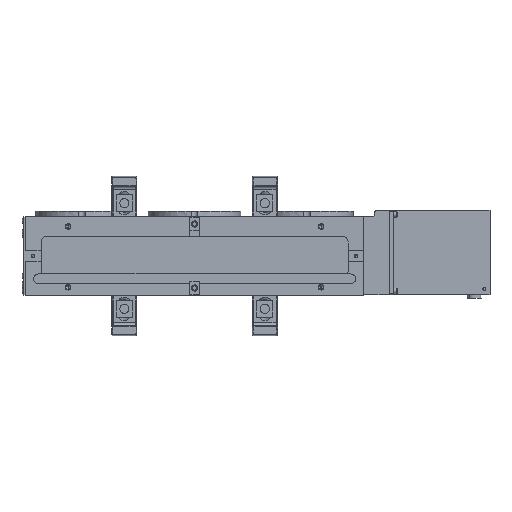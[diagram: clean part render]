
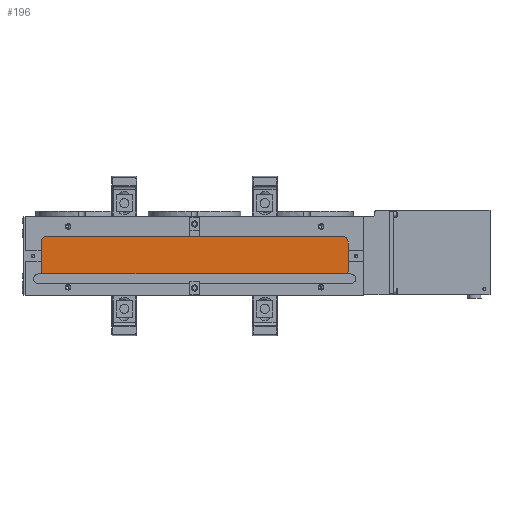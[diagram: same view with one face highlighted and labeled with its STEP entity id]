
A CAD part, front view. The second image highlights one B-rep face of the part: STEP entity #196.
In plain terms, the highlighted planar face has unit normal (0, -1, 0).
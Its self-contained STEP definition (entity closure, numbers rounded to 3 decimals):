
#196 = ADVANCED_FACE ( 'NONE', ( #42994 ), #92399, .F. ) ;
#3264 = EDGE_CURVE ( 'NONE', #18555, #72468, #52448, .T. ) ;
#4252 = DIRECTION ( 'NONE',  ( 0., -1., 0. ) ) ;
#5420 = CARTESIAN_POINT ( 'NONE',  ( -463., -134., -24. ) ) ;
#6254 = DIRECTION ( 'NONE',  ( 0., 0., -1. ) ) ;
#6754 = CARTESIAN_POINT ( 'NONE',  ( 63., -134., 28. ) ) ;
#8164 = ORIENTED_EDGE ( 'NONE', *, *, #3264, .T. ) ;
#8393 = CARTESIAN_POINT ( 'NONE',  ( 73., -134., -24. ) ) ;
#8798 = VECTOR ( 'NONE', #69285, 1000. ) ;
#9262 = VERTEX_POINT ( 'NONE', #13224 ) ;
#12643 = CARTESIAN_POINT ( 'NONE',  ( -463., -134., 38. ) ) ;
#13038 = LINE ( 'NONE', #53172, #8798 ) ;
#13224 = CARTESIAN_POINT ( 'NONE',  ( -471.66, -134., -29. ) ) ;
#15489 = DIRECTION ( 'NONE',  ( 0., 0., -1. ) ) ;
#17849 = CARTESIAN_POINT ( 'NONE',  ( 71.66, -134., -29. ) ) ;
#18555 = VERTEX_POINT ( 'NONE', #72122 ) ;
#22015 = DIRECTION ( 'NONE',  ( 1., 0., 0. ) ) ;
#25887 = CARTESIAN_POINT ( 'NONE',  ( 63., -134., -24. ) ) ;
#26748 = CARTESIAN_POINT ( 'NONE',  ( 73., -134., 28. ) ) ;
#28215 = VERTEX_POINT ( 'NONE', #8393 ) ;
#29048 = ORIENTED_EDGE ( 'NONE', *, *, #50282, .T. ) ;
#30083 = AXIS2_PLACEMENT_3D ( 'NONE', #5420, #37212, #68968 ) ;
#30338 = CARTESIAN_POINT ( 'NONE',  ( -463., -134., -29. ) ) ;
#32124 = EDGE_CURVE ( 'NONE', #86004, #47029, #13038, .T. ) ;
#33317 = EDGE_CURVE ( 'NONE', #56972, #86004, #57153, .T. ) ;
#34975 = EDGE_CURVE ( 'NONE', #28215, #56972, #59060, .T. ) ;
#35430 = CARTESIAN_POINT ( 'NONE',  ( 63., -134., 38. ) ) ;
#36791 = DIRECTION ( 'NONE',  ( 0., 0., -1. ) ) ;
#37212 = DIRECTION ( 'NONE',  ( 0., 1., 0. ) ) ;
#37459 = AXIS2_PLACEMENT_3D ( 'NONE', #25887, #80073, #15489 ) ;
#42547 = VECTOR ( 'NONE', #36791, 1000. ) ;
#42994 = FACE_OUTER_BOUND ( 'NONE', #97655, .T. ) ;
#43761 = ORIENTED_EDGE ( 'NONE', *, *, #95267, .T. ) ;
#44820 = ORIENTED_EDGE ( 'NONE', *, *, #33317, .T. ) ;
#45456 = AXIS2_PLACEMENT_3D ( 'NONE', #6754, #84444, #6254 ) ;
#46510 = LINE ( 'NONE', #30338, #103039 ) ;
#47029 = VERTEX_POINT ( 'NONE', #12643 ) ;
#50262 = CARTESIAN_POINT ( 'NONE',  ( -473., -134., -24. ) ) ;
#50282 = EDGE_CURVE ( 'NONE', #9262, #70671, #46510, .T. ) ;
#52297 = DIRECTION ( 'NONE',  ( 0., 0., 1. ) ) ;
#52448 = LINE ( 'NONE', #71001, #42547 ) ;
#53172 = CARTESIAN_POINT ( 'NONE',  ( -463., -134., 38. ) ) ;
#56134 = ORIENTED_EDGE ( 'NONE', *, *, #100502, .T. ) ;
#56972 = VERTEX_POINT ( 'NONE', #73581 ) ;
#57153 = CIRCLE ( 'NONE', #45456, 10. ) ;
#57448 = CIRCLE ( 'NONE', #37459, 10. ) ;
#59060 = LINE ( 'NONE', #26748, #71030 ) ;
#60111 = AXIS2_PLACEMENT_3D ( 'NONE', #98660, #84572, #52297 ) ;
#64155 = EDGE_CURVE ( 'NONE', #47029, #18555, #66275, .T. ) ;
#66275 = CIRCLE ( 'NONE', #89506, 10. ) ;
#68383 = ORIENTED_EDGE ( 'NONE', *, *, #64155, .T. ) ;
#68968 = DIRECTION ( 'NONE',  ( 0., 0., 1. ) ) ;
#69285 = DIRECTION ( 'NONE',  ( -1., 0., 0. ) ) ;
#70671 = VERTEX_POINT ( 'NONE', #17849 ) ;
#71001 = CARTESIAN_POINT ( 'NONE',  ( -473., -134., 28. ) ) ;
#71030 = VECTOR ( 'NONE', #88733, 1000. ) ;
#72122 = CARTESIAN_POINT ( 'NONE',  ( -473., -134., 28. ) ) ;
#72468 = VERTEX_POINT ( 'NONE', #50262 ) ;
#73581 = CARTESIAN_POINT ( 'NONE',  ( 73., -134., 28. ) ) ;
#75115 = CARTESIAN_POINT ( 'NONE',  ( -463., -134., 28. ) ) ;
#78464 = ORIENTED_EDGE ( 'NONE', *, *, #34975, .T. ) ;
#79981 = CIRCLE ( 'NONE', #60111, 10. ) ;
#80073 = DIRECTION ( 'NONE',  ( 0., -1., 0. ) ) ;
#81851 = ORIENTED_EDGE ( 'NONE', *, *, #32124, .T. ) ;
#84444 = DIRECTION ( 'NONE',  ( 0., -1., 0. ) ) ;
#84572 = DIRECTION ( 'NONE',  ( 0., -1., 0. ) ) ;
#86004 = VERTEX_POINT ( 'NONE', #35430 ) ;
#88733 = DIRECTION ( 'NONE',  ( 0., 0., 1. ) ) ;
#89506 = AXIS2_PLACEMENT_3D ( 'NONE', #75115, #4252, #90211 ) ;
#90211 = DIRECTION ( 'NONE',  ( 0., 0., -1. ) ) ;
#92399 = PLANE ( 'NONE',  #30083 ) ;
#95267 = EDGE_CURVE ( 'NONE', #70671, #28215, #57448, .T. ) ;
#97655 = EDGE_LOOP ( 'NONE', ( #56134, #29048, #43761, #78464, #44820, #81851, #68383, #8164 ) ) ;
#98660 = CARTESIAN_POINT ( 'NONE',  ( -463., -134., -24. ) ) ;
#100502 = EDGE_CURVE ( 'NONE', #72468, #9262, #79981, .T. ) ;
#103039 = VECTOR ( 'NONE', #22015, 1000. ) ;
